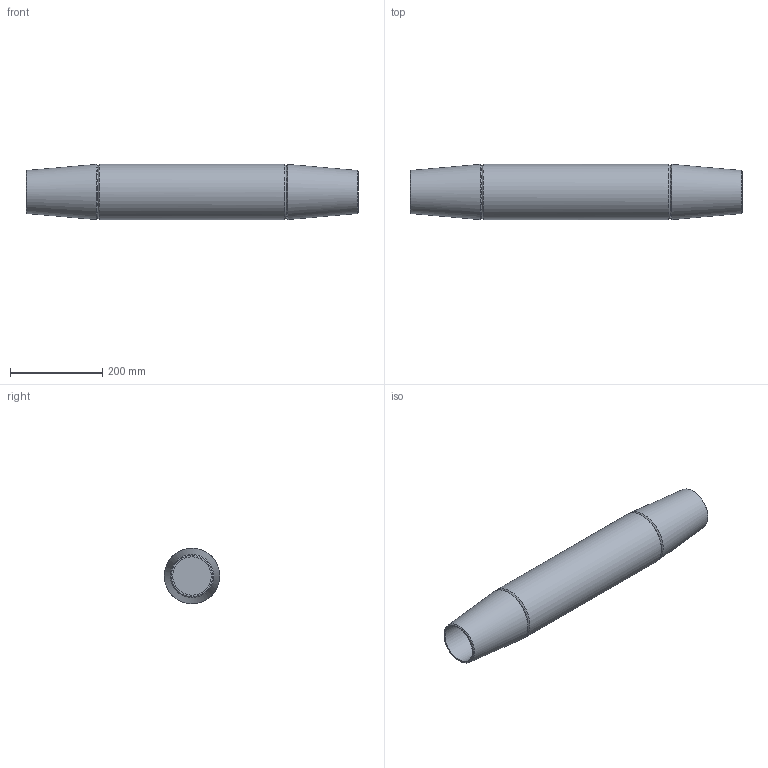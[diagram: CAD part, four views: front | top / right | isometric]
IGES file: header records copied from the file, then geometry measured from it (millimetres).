
Global section: file name: 520-080-MUF; native system: Autodesk Inventor 2016; preprocessor: unknown; author: Administrator; date: 20200630.132312; units: centimetre
Bounding box: 718 x 120 x 119.78 mm (x, y, z)
Volume: 6137345 mm3; surface area: 332464.1 mm2
Topology: 1 solids, 1 shells, 15 faces, 35 edges, 24 vertices
Faces by surface type: bspline 15
